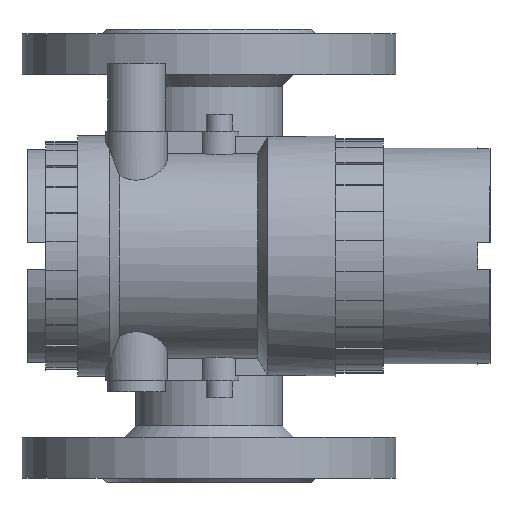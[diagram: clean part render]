
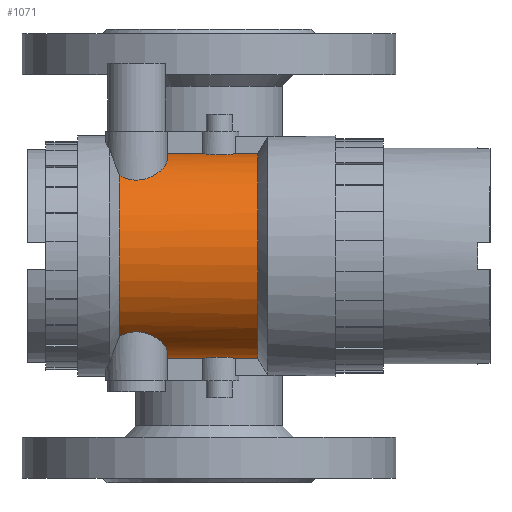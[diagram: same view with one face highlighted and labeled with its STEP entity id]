
A CAD part, left-side view. The second image highlights one B-rep face of the part: STEP entity #1071.
In plain terms, the highlighted cylindrical face has radius 45.45 mm (diameter 90.9 mm), a partial arc.
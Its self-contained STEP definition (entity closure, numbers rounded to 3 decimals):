
#62=B_SPLINE_CURVE_WITH_KNOTS('',3,(#6274,#6275,#6276,#6277,#6278,#6279,
#6280,#6281,#6282,#6283),.UNSPECIFIED.,.F.,.F.,(4,2,2,2,4),(0.,0.25,0.5,
0.75,1.),.UNSPECIFIED.);
#68=B_SPLINE_CURVE_WITH_KNOTS('',3,(#6329,#6330,#6331,#6332,#6333,#6334,
#6335,#6336,#6337,#6338),.UNSPECIFIED.,.F.,.F.,(4,2,2,2,4),(0.,0.25,0.5,
0.75,1.),.UNSPECIFIED.);
#73=B_SPLINE_CURVE_WITH_KNOTS('',3,(#6425,#6426,#6427,#6428,#6429,#6430),
 .UNSPECIFIED.,.F.,.F.,(4,2,4),(0.,0.5,1.),.UNSPECIFIED.);
#74=B_SPLINE_CURVE_WITH_KNOTS('',3,(#6431,#6432,#6433,#6434,#6435,#6436),
 .UNSPECIFIED.,.F.,.F.,(4,2,4),(0.,0.5,1.),.UNSPECIFIED.);
#285=CYLINDRICAL_SURFACE('',#4188,45.45);
#577=LINE('',#6379,#875);
#583=LINE('',#6395,#881);
#588=LINE('',#6421,#886);
#590=LINE('',#6438,#888);
#875=VECTOR('',#5192,1.);
#881=VECTOR('',#5206,1.);
#886=VECTOR('',#5217,1.);
#888=VECTOR('',#5221,1.);
#1071=ADVANCED_FACE('',(#1385),#285,.T.);
#1385=FACE_OUTER_BOUND('',#1588,.T.);
#1588=EDGE_LOOP('',(#2566,#2567,#2568,#2569,#2570,#2571,#2572,#2573,#2574,
#2575,#2576,#2577));
#2566=ORIENTED_EDGE('',*,*,#3578,.T.);
#2567=ORIENTED_EDGE('',*,*,#3560,.T.);
#2568=ORIENTED_EDGE('',*,*,#3538,.T.);
#2569=ORIENTED_EDGE('',*,*,#3576,.T.);
#2570=ORIENTED_EDGE('',*,*,#3579,.T.);
#2571=ORIENTED_EDGE('',*,*,#3580,.T.);
#2572=ORIENTED_EDGE('',*,*,#3547,.T.);
#2573=ORIENTED_EDGE('',*,*,#3543,.T.);
#2574=ORIENTED_EDGE('',*,*,#3533,.F.);
#2575=ORIENTED_EDGE('',*,*,#3531,.T.);
#2576=ORIENTED_EDGE('',*,*,#3524,.T.);
#2577=ORIENTED_EDGE('',*,*,#3568,.T.);
#3023=VERTEX_POINT('',#6257);
#3024=VERTEX_POINT('',#6258);
#3030=VERTEX_POINT('',#6284);
#3031=VERTEX_POINT('',#6293);
#3035=VERTEX_POINT('',#6310);
#3036=VERTEX_POINT('',#6312);
#3040=VERTEX_POINT('',#6339);
#3043=VERTEX_POINT('',#6347);
#3052=VERTEX_POINT('',#6380);
#3058=VERTEX_POINT('',#6396);
#3064=VERTEX_POINT('',#6422);
#3065=VERTEX_POINT('',#6437);
#3524=EDGE_CURVE('',#3023,#3024,#3797,.T.);
#3531=EDGE_CURVE('',#3030,#3023,#62,.T.);
#3533=EDGE_CURVE('',#3030,#3031,#3799,.T.);
#3538=EDGE_CURVE('',#3036,#3035,#3802,.T.);
#3543=EDGE_CURVE('',#3040,#3031,#68,.T.);
#3547=EDGE_CURVE('',#3043,#3040,#3806,.T.);
#3560=EDGE_CURVE('',#3052,#3036,#577,.T.);
#3568=EDGE_CURVE('',#3024,#3058,#583,.T.);
#3576=EDGE_CURVE('',#3035,#3064,#588,.T.);
#3578=EDGE_CURVE('',#3058,#3052,#73,.T.);
#3579=EDGE_CURVE('',#3064,#3065,#74,.T.);
#3580=EDGE_CURVE('',#3065,#3043,#590,.T.);
#3797=CIRCLE('',#4154,45.45);
#3799=CIRCLE('',#4158,45.45);
#3802=CIRCLE('',#4162,45.45);
#3806=CIRCLE('',#4170,45.45);
#4154=AXIS2_PLACEMENT_3D('',#6256,#5128,#5129);
#4158=AXIS2_PLACEMENT_3D('',#6292,#5140,#5141);
#4162=AXIS2_PLACEMENT_3D('',#6311,#5148,#5149);
#4170=AXIS2_PLACEMENT_3D('',#6346,#5166,#5167);
#4188=AXIS2_PLACEMENT_3D('',#6439,#5222,#5223);
#5128=DIRECTION('',(0.,-1.,0.));
#5129=DIRECTION('',(1.,0.,0.));
#5140=DIRECTION('',(0.,1.,0.));
#5141=DIRECTION('',(-1.,0.,0.));
#5148=DIRECTION('',(0.,1.,0.));
#5149=DIRECTION('',(-1.,0.,0.));
#5166=DIRECTION('',(0.,-1.,0.));
#5167=DIRECTION('',(1.,0.,0.));
#5192=DIRECTION('',(0.,-1.,0.));
#5206=DIRECTION('',(0.,-1.,0.));
#5217=DIRECTION('',(0.,1.,0.));
#5221=DIRECTION('',(0.,1.,0.));
#5222=DIRECTION('',(0.,1.,0.));
#5223=DIRECTION('',(-1.,0.,0.));
#6256=CARTESIAN_POINT('',(0.,18.5,-123.5));
#6257=CARTESIAN_POINT('',(-17.25,18.5,-165.549));
#6258=CARTESIAN_POINT('',(-5.,18.5,-168.674));
#6274=CARTESIAN_POINT('',(-28.475,39.5,-158.924));
#6275=CARTESIAN_POINT('',(-29.81,37.502,-157.851));
#6276=CARTESIAN_POINT('',(-30.661,35.049,-157.05));
#6277=CARTESIAN_POINT('',(-30.826,29.797,-156.899));
#6278=CARTESIAN_POINT('',(-30.103,27.216,-157.589));
#6279=CARTESIAN_POINT('',(-27.645,23.054,-159.611));
#6280=CARTESIAN_POINT('',(-25.948,21.425,-160.888));
#6281=CARTESIAN_POINT('',(-21.971,19.147,-163.355));
#6282=CARTESIAN_POINT('',(-19.688,18.5,-164.549));
#6283=CARTESIAN_POINT('',(-17.25,18.5,-165.549));
#6284=CARTESIAN_POINT('',(-28.475,39.5,-158.924));
#6292=CARTESIAN_POINT('',(0.,39.5,-123.5));
#6293=CARTESIAN_POINT('',(-28.475,39.5,-88.076));
#6310=CARTESIAN_POINT('',(-5.,-21.5,-78.326));
#6311=CARTESIAN_POINT('',(0.,-21.5,-123.5));
#6312=CARTESIAN_POINT('',(-5.,-21.5,-168.674));
#6329=CARTESIAN_POINT('',(-17.25,18.5,-81.451));
#6330=CARTESIAN_POINT('',(-19.686,18.5,-82.45));
#6331=CARTESIAN_POINT('',(-21.976,19.149,-83.648));
#6332=CARTESIAN_POINT('',(-25.945,21.423,-86.11));
#6333=CARTESIAN_POINT('',(-27.64,23.053,-87.386));
#6334=CARTESIAN_POINT('',(-30.088,27.184,-89.399));
#6335=CARTESIAN_POINT('',(-30.819,29.779,-90.095));
#6336=CARTESIAN_POINT('',(-30.67,34.992,-89.958));
#6337=CARTESIAN_POINT('',(-29.813,37.498,-89.151));
#6338=CARTESIAN_POINT('',(-28.475,39.5,-88.076));
#6339=CARTESIAN_POINT('',(-17.25,18.5,-81.451));
#6346=CARTESIAN_POINT('',(0.,18.5,-123.5));
#6347=CARTESIAN_POINT('',(-5.,18.5,-78.326));
#6379=CARTESIAN_POINT('',(-5.,-123.5,-168.674));
#6380=CARTESIAN_POINT('',(-5.,-11.681,-168.674));
#6395=CARTESIAN_POINT('',(-5.,-123.5,-168.674));
#6396=CARTESIAN_POINT('',(-5.,2.681,-168.674));
#6421=CARTESIAN_POINT('',(-5.,-123.5,-78.326));
#6422=CARTESIAN_POINT('',(-5.,-11.681,-78.326));
#6425=CARTESIAN_POINT('',(-5.,2.681,-168.674));
#6426=CARTESIAN_POINT('',(-7.321,1.064,-168.417));
#6427=CARTESIAN_POINT('',(-8.747,-1.672,-168.1));
#6428=CARTESIAN_POINT('',(-8.753,-7.31,-168.099));
#6429=CARTESIAN_POINT('',(-7.321,-10.064,-168.417));
#6430=CARTESIAN_POINT('',(-5.,-11.681,-168.674));
#6431=CARTESIAN_POINT('',(-5.,-11.681,-78.326));
#6432=CARTESIAN_POINT('',(-7.321,-10.064,-78.583));
#6433=CARTESIAN_POINT('',(-8.747,-7.328,-78.9));
#6434=CARTESIAN_POINT('',(-8.753,-1.69,-78.901));
#6435=CARTESIAN_POINT('',(-7.321,1.064,-78.583));
#6436=CARTESIAN_POINT('',(-5.,2.681,-78.326));
#6437=CARTESIAN_POINT('',(-5.,2.681,-78.326));
#6438=CARTESIAN_POINT('',(-5.,-123.5,-78.326));
#6439=CARTESIAN_POINT('',(0.,-123.5,-123.5));
